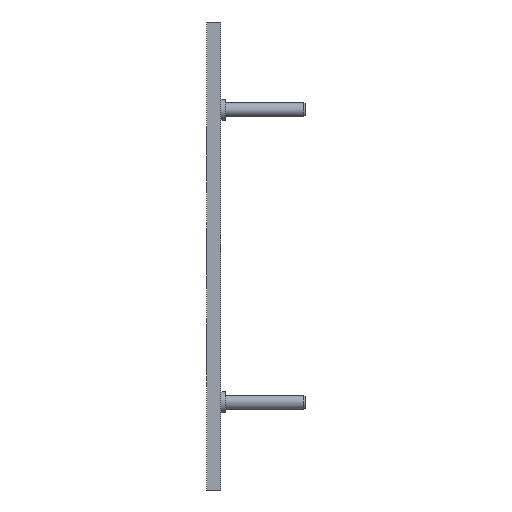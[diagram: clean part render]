
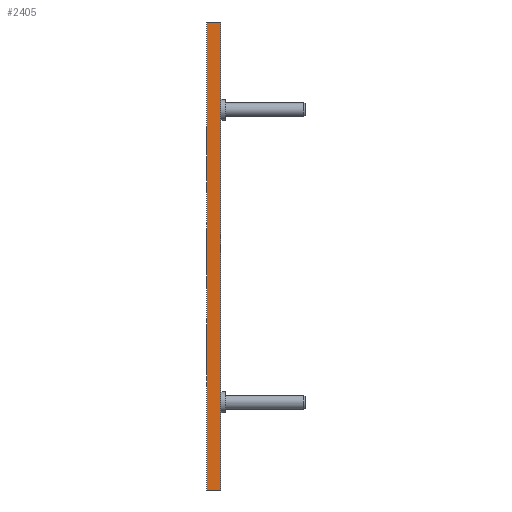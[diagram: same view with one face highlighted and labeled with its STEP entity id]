
A CAD part, front view. The second image highlights one B-rep face of the part: STEP entity #2405.
In plain terms, the highlighted planar face has unit normal (0, -1, 0).
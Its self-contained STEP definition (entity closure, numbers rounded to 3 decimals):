
#107=PLANE('',#2679);
#229=FACE_OUTER_BOUND('',#355,.T.);
#355=EDGE_LOOP('',(#2009,#2010,#2011,#2012));
#593=LINE('',#4095,#809);
#594=LINE('',#4097,#810);
#595=LINE('',#4099,#811);
#596=LINE('',#4100,#812);
#809=VECTOR('',#3389,10.);
#810=VECTOR('',#3390,10.);
#811=VECTOR('',#3391,10.);
#812=VECTOR('',#3392,10.);
#1181=VERTEX_POINT('',#4093);
#1182=VERTEX_POINT('',#4094);
#1183=VERTEX_POINT('',#4096);
#1184=VERTEX_POINT('',#4098);
#1525=EDGE_CURVE('',#1181,#1182,#593,.T.);
#1526=EDGE_CURVE('',#1183,#1182,#594,.T.);
#1527=EDGE_CURVE('',#1183,#1184,#595,.T.);
#1528=EDGE_CURVE('',#1184,#1181,#596,.T.);
#2009=ORIENTED_EDGE('',*,*,#1525,.T.);
#2010=ORIENTED_EDGE('',*,*,#1526,.F.);
#2011=ORIENTED_EDGE('',*,*,#1527,.T.);
#2012=ORIENTED_EDGE('',*,*,#1528,.T.);
#2405=ADVANCED_FACE('',(#229),#107,.T.);
#2679=AXIS2_PLACEMENT_3D('',#4092,#3387,#3388);
#3387=DIRECTION('center_axis',(0.,-1.,0.));
#3388=DIRECTION('ref_axis',(0.,0.,-1.));
#3389=DIRECTION('',(0.,0.,1.));
#3390=DIRECTION('',(1.,0.,0.));
#3391=DIRECTION('',(0.,0.,-1.));
#3392=DIRECTION('',(1.,0.,0.));
#4092=CARTESIAN_POINT('Origin',(0.,-75.,-50.));
#4093=CARTESIAN_POINT('',(3.,-75.,-50.));
#4094=CARTESIAN_POINT('',(3.,-75.,50.));
#4095=CARTESIAN_POINT('',(3.,-75.,50.));
#4096=CARTESIAN_POINT('',(0.,-75.,50.));
#4097=CARTESIAN_POINT('',(0.,-75.,50.));
#4098=CARTESIAN_POINT('',(0.,-75.,-50.));
#4099=CARTESIAN_POINT('',(0.,-75.,50.));
#4100=CARTESIAN_POINT('',(0.,-75.,-50.));
